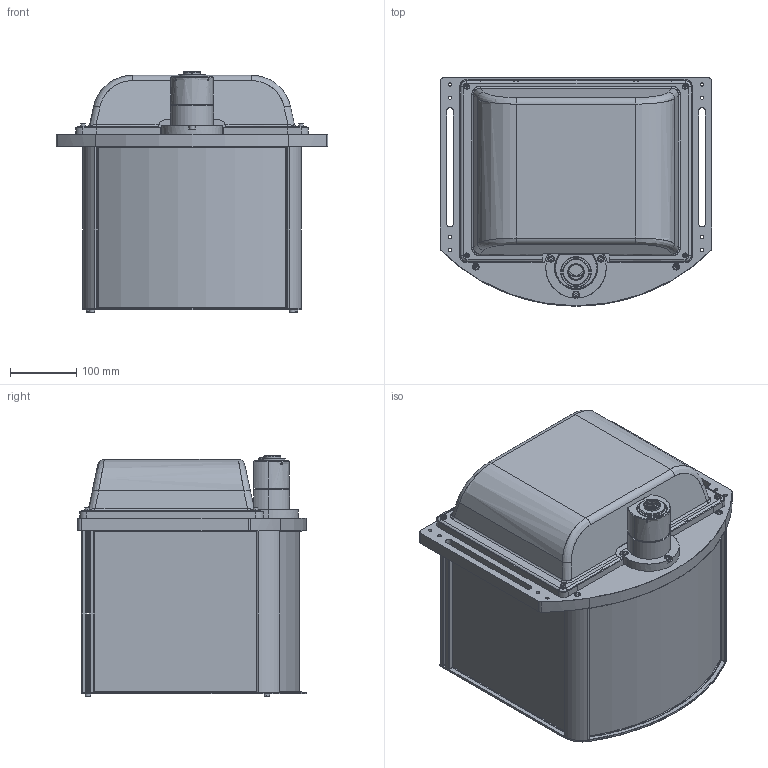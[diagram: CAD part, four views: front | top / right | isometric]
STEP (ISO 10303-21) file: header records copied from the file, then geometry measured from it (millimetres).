
FILE_DESCRIPTION(('LS-TCL-0351'),'2;1');
FILE_NAME('LS-TCL-0351.stp','2026-10-15T21:55:57',('LumaSpec Vision'),('LumaSpec Vision'),'LumaSpec Vision','LumaSpec Vision','');
FILE_SCHEMA(('AUTOMOTIVE_DESIGN { 1 0 10303 214 1 1 1 1 }'));
Length unit declared in the file: millimetre
Products named in the file (459): LumaSpec Vision
Assembly tree (458 placements, depth 2):
  LumaSpec Vision
    LumaSpec Vision
    LumaSpec Vision
    LumaSpec Vision
    LumaSpec Vision
    LumaSpec Vision
    LumaSpec Vision
    LumaSpec Vision
    LumaSpec Vision
    LumaSpec Vision
    LumaSpec Vision
    LumaSpec Vision
    LumaSpec Vision
    LumaSpec Vision
    LumaSpec Vision
    LumaSpec Vision
    LumaSpec Vision
    LumaSpec Vision
    LumaSpec Vision
    LumaSpec Vision
    LumaSpec Vision
    LumaSpec Vision
    LumaSpec Vision
    LumaSpec Vision
    LumaSpec Vision
    LumaSpec Vision
    LumaSpec Vision
    LumaSpec Vision
    LumaSpec Vision
    LumaSpec Vision
    LumaSpec Vision
    LumaSpec Vision
    LumaSpec Vision
    LumaSpec Vision
    LumaSpec Vision
    LumaSpec Vision
    LumaSpec Vision
    LumaSpec Vision
    LumaSpec Vision
    LumaSpec Vision
    LumaSpec Vision
    LumaSpec Vision
    LumaSpec Vision
    LumaSpec Vision
    LumaSpec Vision
    LumaSpec Vision
    LumaSpec Vision
    LumaSpec Vision
    LumaSpec Vision
    LumaSpec Vision
    LumaSpec Vision
    LumaSpec Vision
    LumaSpec Vision
    LumaSpec Vision
    LumaSpec Vision
    LumaSpec Vision
    LumaSpec Vision
    LumaSpec Vision
    LumaSpec Vision
    LumaSpec Vision
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Bounding box: 410.34 x 344.11 x 363.12 mm (x, y, z)
Surface area: 862433.7 mm2 (no closed solid volume)
Topology: 0 solids, 458 shells, 458 faces, 6912 edges, 6912 vertices
Faces by surface type: bspline 244, revolution 214
Entity records: 117627 total; most frequent: CARTESIAN_POINT 46044, B_SPLINE_CURVE_WITH_KNOTS 11854, ORIENTED_EDGE 6912, EDGE_CURVE 6912, VERTEX_POINT 6912, SURFACE_CURVE 6912, PCURVE 6912, DEFINITIONAL_REPRESENTATION 6912
